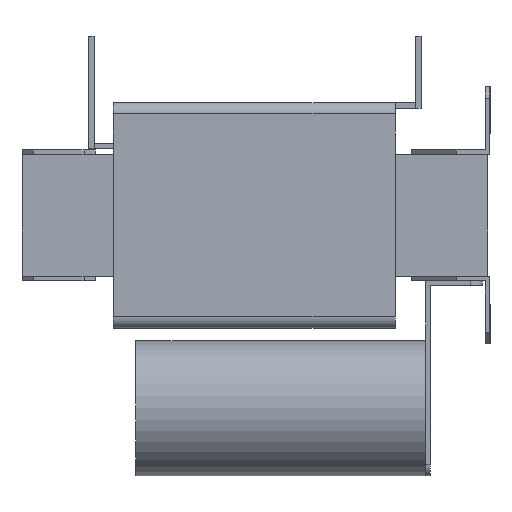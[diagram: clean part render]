
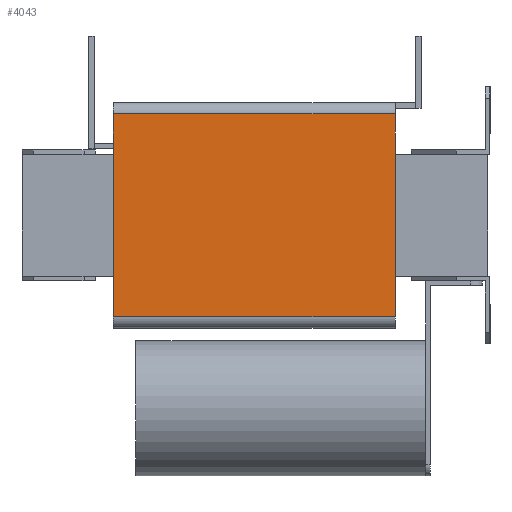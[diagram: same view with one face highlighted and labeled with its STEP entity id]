
A CAD part, left-side view. The second image highlights one B-rep face of the part: STEP entity #4043.
In plain terms, the highlighted planar face has unit normal (-1, 0, 0).
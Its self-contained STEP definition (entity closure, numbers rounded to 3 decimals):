
#361=FACE_OUTER_BOUND('',#613,.T.);
#613=EDGE_LOOP('',(#3115,#3116,#3117,#3118));
#959=LINE('',#6171,#1415);
#964=LINE('',#6190,#1420);
#968=LINE('',#6204,#1424);
#971=LINE('',#6210,#1427);
#1415=VECTOR('',#5011,10.);
#1420=VECTOR('',#5028,10.);
#1424=VECTOR('',#5040,10.);
#1427=VECTOR('',#5049,10.);
#1847=VERTEX_POINT('',#6169);
#1848=VERTEX_POINT('',#6170);
#1856=VERTEX_POINT('',#6188);
#1862=VERTEX_POINT('',#6202);
#2295=EDGE_CURVE('',#1847,#1848,#959,.T.);
#2305=EDGE_CURVE('',#1856,#1847,#964,.T.);
#2312=EDGE_CURVE('',#1856,#1862,#968,.T.);
#2315=EDGE_CURVE('',#1848,#1862,#971,.T.);
#3115=ORIENTED_EDGE('',*,*,#2305,.F.);
#3116=ORIENTED_EDGE('',*,*,#2312,.T.);
#3117=ORIENTED_EDGE('',*,*,#2315,.F.);
#3118=ORIENTED_EDGE('',*,*,#2295,.F.);
#3833=PLANE('',#4381);
#4043=ADVANCED_FACE('',(#361),#3833,.T.);
#4381=AXIS2_PLACEMENT_3D('',#6216,#5057,#5058);
#5011=DIRECTION('',(0.,0.,1.));
#5028=DIRECTION('',(0.,1.,0.));
#5040=DIRECTION('',(0.,0.,1.));
#5049=DIRECTION('',(0.,-1.,0.));
#5057=DIRECTION('center_axis',(-1.,0.,0.));
#5058=DIRECTION('ref_axis',(0.,0.,1.));
#6169=CARTESIAN_POINT('',(-202.,334.,-90.));
#6170=CARTESIAN_POINT('',(-202.,334.,90.));
#6171=CARTESIAN_POINT('',(-202.,334.,-90.));
#6188=CARTESIAN_POINT('',(-202.,84.,-90.));
#6190=CARTESIAN_POINT('',(-202.,84.,-90.));
#6202=CARTESIAN_POINT('',(-202.,84.,90.));
#6204=CARTESIAN_POINT('',(-202.,84.,-100.));
#6210=CARTESIAN_POINT('',(-202.,84.,90.));
#6216=CARTESIAN_POINT('Origin',(-202.,84.,-100.));
